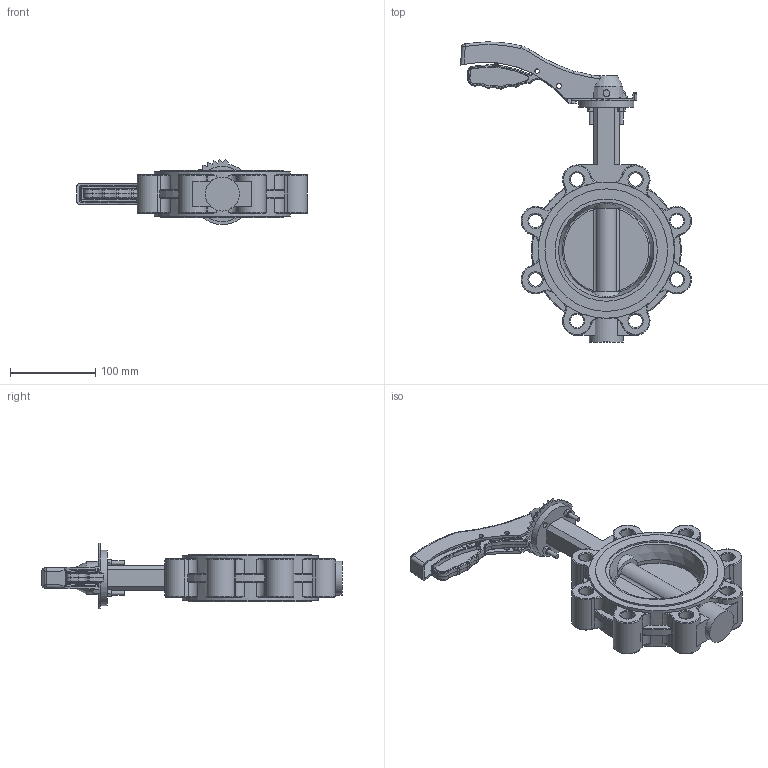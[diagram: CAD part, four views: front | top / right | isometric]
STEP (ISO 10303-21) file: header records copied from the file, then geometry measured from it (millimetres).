
FILE_DESCRIPTION (( 'STEP AP214' ), '1' );
FILE_NAME ('忒梟 等標評概Fig3240-100-16.STEP', '2026-03-20T05:52:46', ( '' ), ( '' ), 'SwSTEP 2.0', 'SolidWorks 2024', '' );
FILE_SCHEMA (( 'AUTOMOTIVE_DESIGN' ));
Length unit declared in the file: millimetre
Products named in the file (1): 手柄 单夹蝶阀Fig3240-100-16
Bounding box: 271.46 x 352.79 x 76.71 mm (x, y, z)
Volume: 1135233.8 mm3; surface area: 194249 mm2
Topology: 1 solids, 6 shells, 1274 faces, 3527 edges, 2308 vertices
Faces by surface type: plane 778, cylinder 228, bspline 116, torus 80, cone 72
Full cylindrical faces by diameter (mm): 5 x5, 5.25 x3, 6.2 x2, 7 x4, 7.04 x2, 8 x1, 8.9 x2, 15.9 x1, 16 x8, 19.6 x1, 20 x1, 40 x1, 65 x1, 120.1 x2, 144.1 x2, 160.1 x2
Entity records: 64462 total; most frequent: CARTESIAN_POINT 20021, ORIENTED_EDGE 6846, DIRECTION 5425, EDGE_CURVE 3423, VERTEX_POINT 2276, LINE 2089, VECTOR 2089, AXIS2_PLACEMENT_3D 1668
